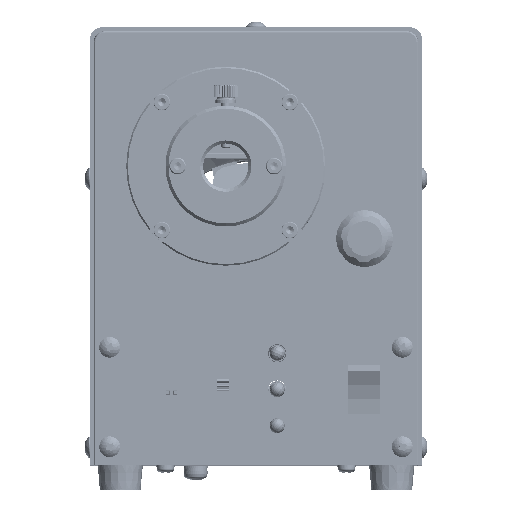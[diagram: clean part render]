
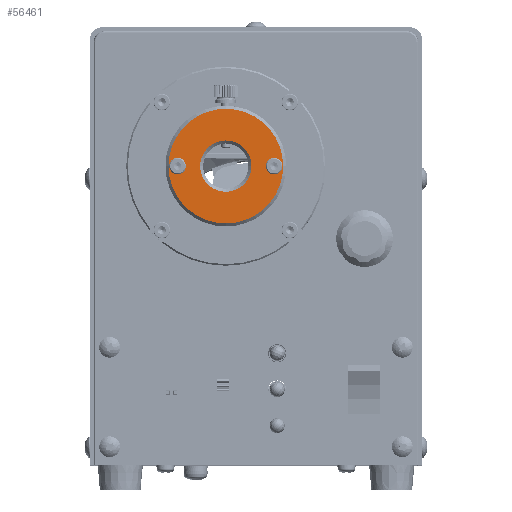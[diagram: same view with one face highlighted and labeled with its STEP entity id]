
A CAD part, top view. The second image highlights one B-rep face of the part: STEP entity #56461.
In plain terms, the highlighted planar face has unit normal (0, 0, 1).
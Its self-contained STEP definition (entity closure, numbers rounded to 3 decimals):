
#4239 = FACE_BOUND ( 'NONE', #60287, .T. ) ;
#4241 = FACE_BOUND ( 'NONE', #60288, .T. ) ;
#4243 = FACE_OUTER_BOUND ( 'NONE', #60289, .T. ) ;
#4245 = FACE_BOUND ( 'NONE', #60290, .T. ) ;
#6289 = CIRCLE ( 'NONE', #6290, 2.75 ) ;
#6290 = AXIS2_PLACEMENT_3D ( 'NONE', #11919, #11920, #11921 ) ;
#6295 = CIRCLE ( 'NONE', #6296, 2.75 ) ;
#6296 = AXIS2_PLACEMENT_3D ( 'NONE', #11929, #11930, #11931 ) ;
#6298 = CIRCLE ( 'NONE', #6300, 19. ) ;
#6300 = AXIS2_PLACEMENT_3D ( 'NONE', #11936, #11937, #11938 ) ;
#6307 = CIRCLE ( 'NONE', #6308, 8.5 ) ;
#6308 = AXIS2_PLACEMENT_3D ( 'NONE', #11949, #11950, #11951 ) ;
#6370 = CIRCLE ( 'NONE', #6377, 8.5 ) ;
#6372 = CIRCLE ( 'NONE', #6378, 19. ) ;
#6374 = CIRCLE ( 'NONE', #6380, 2.75 ) ;
#6376 = CIRCLE ( 'NONE', #6382, 2.75 ) ;
#6377 = AXIS2_PLACEMENT_3D ( 'NONE', #14976, #14978, #14980 ) ;
#6378 = AXIS2_PLACEMENT_3D ( 'NONE', #14982, #14984, #14986 ) ;
#6380 = AXIS2_PLACEMENT_3D ( 'NONE', #14989, #14991, #14992 ) ;
#6382 = AXIS2_PLACEMENT_3D ( 'NONE', #14995, #14997, #14999 ) ;
#7095 = AXIS2_PLACEMENT_3D ( 'NONE', #16085, #16086, #16087 ) ;
#11919 = CARTESIAN_POINT ( 'NONE',  ( 2.574, 84.828, 204.8 ) ) ;
#11920 = DIRECTION ( 'NONE',  ( 0., 0., -1. ) ) ;
#11921 = DIRECTION ( 'NONE',  ( 0., 1., 0. ) ) ;
#11929 = CARTESIAN_POINT ( 'NONE',  ( -29.426, 84.828, 204.8 ) ) ;
#11930 = DIRECTION ( 'NONE',  ( 0., 0., -1. ) ) ;
#11931 = DIRECTION ( 'NONE',  ( 0., 1., 0. ) ) ;
#11936 = CARTESIAN_POINT ( 'NONE',  ( -13.426, 84.828, 204.8 ) ) ;
#11937 = DIRECTION ( 'NONE',  ( 0., 0., 1. ) ) ;
#11938 = DIRECTION ( 'NONE',  ( 0., -1., 0. ) ) ;
#11949 = CARTESIAN_POINT ( 'NONE',  ( -13.426, 84.828, 204.8 ) ) ;
#11950 = DIRECTION ( 'NONE',  ( 0., 0., -1. ) ) ;
#11951 = DIRECTION ( 'NONE',  ( 0., 1., 0. ) ) ;
#14976 = CARTESIAN_POINT ( 'NONE',  ( -13.426, 84.828, 204.8 ) ) ;
#14978 = DIRECTION ( 'NONE',  ( 0., 0., -1. ) ) ;
#14980 = DIRECTION ( 'NONE',  ( 0., 1., 0. ) ) ;
#14982 = CARTESIAN_POINT ( 'NONE',  ( -13.426, 84.828, 204.8 ) ) ;
#14984 = DIRECTION ( 'NONE',  ( 0., 0., 1. ) ) ;
#14986 = DIRECTION ( 'NONE',  ( 0., -1., 0. ) ) ;
#14989 = CARTESIAN_POINT ( 'NONE',  ( -29.426, 84.828, 204.8 ) ) ;
#14991 = DIRECTION ( 'NONE',  ( 0., 0., -1. ) ) ;
#14992 = DIRECTION ( 'NONE',  ( 0., 1., 0. ) ) ;
#14995 = CARTESIAN_POINT ( 'NONE',  ( 2.574, 84.828, 204.8 ) ) ;
#14997 = DIRECTION ( 'NONE',  ( 0., 0., -1. ) ) ;
#14999 = DIRECTION ( 'NONE',  ( 0., 1., 0. ) ) ;
#16084 = PLANE ( 'NONE',  #7095 ) ;
#16085 = CARTESIAN_POINT ( 'NONE',  ( -13.426, 84.828, 204.8 ) ) ;
#16086 = DIRECTION ( 'NONE',  ( 0., 0., 1. ) ) ;
#16087 = DIRECTION ( 'NONE',  ( 0., 1., 0. ) ) ;
#18690 = CARTESIAN_POINT ( 'NONE',  ( 2.574, 82.078, 204.8 ) ) ;
#18691 = CARTESIAN_POINT ( 'NONE',  ( 2.574, 87.578, 204.8 ) ) ;
#18694 = CARTESIAN_POINT ( 'NONE',  ( -29.426, 82.078, 204.8 ) ) ;
#18695 = CARTESIAN_POINT ( 'NONE',  ( -29.426, 87.578, 204.8 ) ) ;
#18696 = CARTESIAN_POINT ( 'NONE',  ( -13.426, 103.828, 204.8 ) ) ;
#18697 = CARTESIAN_POINT ( 'NONE',  ( -13.426, 65.828, 204.8 ) ) ;
#18702 = CARTESIAN_POINT ( 'NONE',  ( -13.426, 76.328, 204.8 ) ) ;
#18703 = CARTESIAN_POINT ( 'NONE',  ( -13.426, 93.328, 204.8 ) ) ;
#56131 = EDGE_CURVE ( 'NONE', #59149, #59148, #6289, .T. ) ;
#56139 = EDGE_CURVE ( 'NONE', #59153, #59152, #6295, .T. ) ;
#56146 = EDGE_CURVE ( 'NONE', #59154, #59155, #6298, .T. ) ;
#56156 = EDGE_CURVE ( 'NONE', #59161, #59160, #6307, .T. ) ;
#56220 = EDGE_CURVE ( 'NONE', #59160, #59161, #6370, .T. ) ;
#56221 = EDGE_CURVE ( 'NONE', #59155, #59154, #6372, .T. ) ;
#56222 = EDGE_CURVE ( 'NONE', #59152, #59153, #6374, .T. ) ;
#56223 = EDGE_CURVE ( 'NONE', #59148, #59149, #6376, .T. ) ;
#56461 = ADVANCED_FACE ( 'NONE', ( #4239, #4241, #4243, #4245 ), #16084, .T. ) ;
#59148 = VERTEX_POINT ( 'NONE', #18690 ) ;
#59149 = VERTEX_POINT ( 'NONE', #18691 ) ;
#59152 = VERTEX_POINT ( 'NONE', #18694 ) ;
#59153 = VERTEX_POINT ( 'NONE', #18695 ) ;
#59154 = VERTEX_POINT ( 'NONE', #18696 ) ;
#59155 = VERTEX_POINT ( 'NONE', #18697 ) ;
#59160 = VERTEX_POINT ( 'NONE', #18702 ) ;
#59161 = VERTEX_POINT ( 'NONE', #18703 ) ;
#60287 = EDGE_LOOP ( 'NONE', ( #62253, #62255 ) ) ;
#60288 = EDGE_LOOP ( 'NONE', ( #62257, #62259 ) ) ;
#60289 = EDGE_LOOP ( 'NONE', ( #62261, #62263 ) ) ;
#60290 = EDGE_LOOP ( 'NONE', ( #62264, #62266 ) ) ;
#62253 = ORIENTED_EDGE ( 'NONE', *, *, #56131, .T. ) ;
#62255 = ORIENTED_EDGE ( 'NONE', *, *, #56223, .T. ) ;
#62257 = ORIENTED_EDGE ( 'NONE', *, *, #56139, .T. ) ;
#62259 = ORIENTED_EDGE ( 'NONE', *, *, #56222, .T. ) ;
#62261 = ORIENTED_EDGE ( 'NONE', *, *, #56221, .T. ) ;
#62263 = ORIENTED_EDGE ( 'NONE', *, *, #56146, .T. ) ;
#62264 = ORIENTED_EDGE ( 'NONE', *, *, #56156, .T. ) ;
#62266 = ORIENTED_EDGE ( 'NONE', *, *, #56220, .T. ) ;
